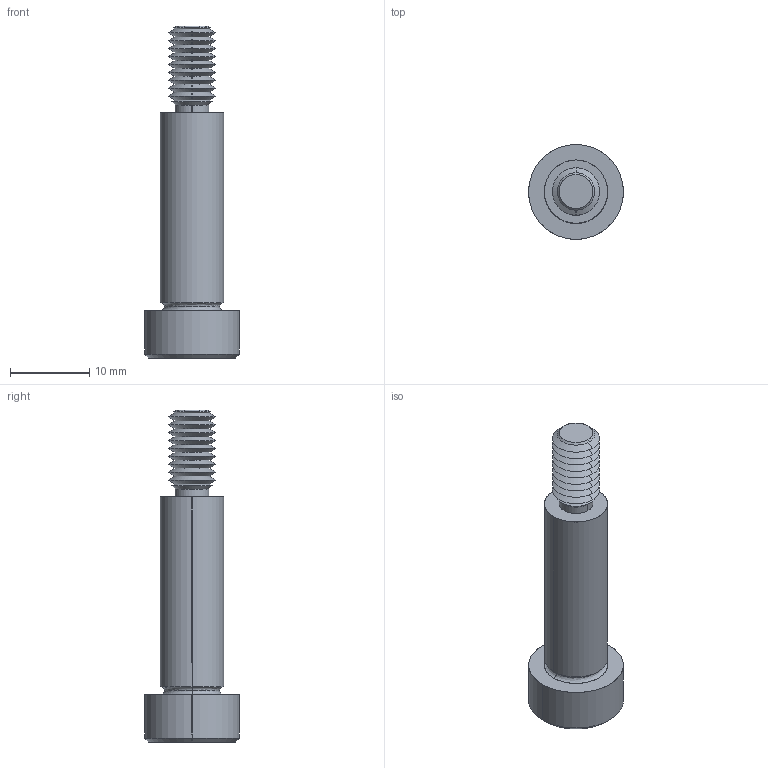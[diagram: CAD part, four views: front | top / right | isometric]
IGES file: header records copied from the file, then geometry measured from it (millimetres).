
Start section: SolidWorks IGES file using analytic representation for surfaces
Global section: file name: C:\Users\IanO\Documents\Temp Folder\GENERAL\SCREW REVISION\P0130_v2\P0130.T5_v2_20220106_IGES\P0130.080-025-T5.igs; native system: SolidWorks 2019; preprocessor: SolidWorks 2019; author: IanO; date: 220106.223435; units: millimetre
Bounding box: 12 x 12 x 42 mm (x, y, z)
Surface area: 1464.6 mm2 (no closed solid volume)
Topology: 0 solids, 0 shells, 80 faces, 580 edges, 578 vertices
Faces by surface type: revolution 60, bspline 20
